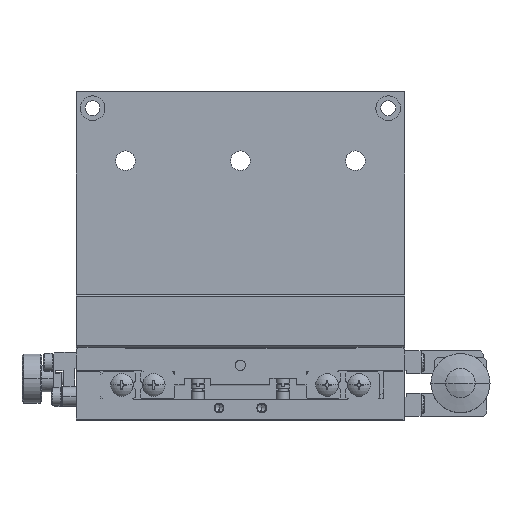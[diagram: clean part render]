
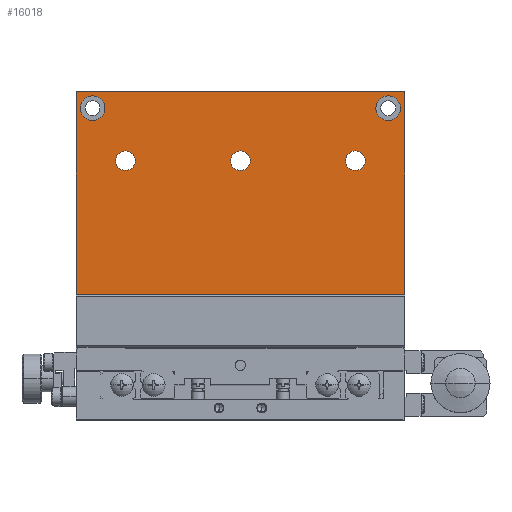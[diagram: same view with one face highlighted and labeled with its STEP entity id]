
A CAD part, top view. The second image highlights one B-rep face of the part: STEP entity #16018.
In plain terms, the highlighted planar face has unit normal (0, 0, 1) as drawn and (0, -1, 0) by its records, which use the part's own axes.
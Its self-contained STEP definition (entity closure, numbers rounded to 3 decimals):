
#1171 = EDGE_CURVE ( 'NONE', #1173, #1875, #42209, .T. ) ;
#1173 = VERTEX_POINT ( 'NONE', #42195 ) ;
#1875 = VERTEX_POINT ( 'NONE', #43419 ) ;
#2656 = EDGE_CURVE ( 'NONE', #2658, #2661, #44769, .T. ) ;
#2658 = VERTEX_POINT ( 'NONE', #44761 ) ;
#2661 = VERTEX_POINT ( 'NONE', #44759 ) ;
#2997 = VERTEX_POINT ( 'NONE', #45536 ) ;
#2999 = EDGE_CURVE ( 'NONE', #3000, #2997, #45528, .T. ) ;
#3000 = VERTEX_POINT ( 'NONE', #45530 ) ;
#3028 = VERTEX_POINT ( 'NONE', #45593 ) ;
#3030 = EDGE_CURVE ( 'NONE', #3032, #3028, #45711, .T. ) ;
#3032 = VERTEX_POINT ( 'NONE', #45704 ) ;
#3268 = VERTEX_POINT ( 'NONE', #46104 ) ;
#3270 = EDGE_CURVE ( 'NONE', #3272, #3268, #46101, .T. ) ;
#3272 = VERTEX_POINT ( 'NONE', #46092 ) ;
#6101 = VERTEX_POINT ( 'NONE', #51802 ) ;
#6105 = EDGE_CURVE ( 'NONE', #6107, #6101, #51797, .T. ) ;
#6107 = VERTEX_POINT ( 'NONE', #51792 ) ;
#6262 = VERTEX_POINT ( 'NONE', #52079 ) ;
#6265 = EDGE_CURVE ( 'NONE', #6262, #6266, #52074, .T. ) ;
#6266 = VERTEX_POINT ( 'NONE', #52067 ) ;
#15965 = EDGE_CURVE ( 'NONE', #6262, #6107, #20200, .T. ) ;
#16000 = ORIENTED_EDGE ( 'NONE', *, *, #38216, .T. ) ;
#16001 = ORIENTED_EDGE ( 'NONE', *, *, #1171, .T. ) ;
#16003 = EDGE_LOOP ( 'NONE', ( #26228, #16107, #16108, #16109 ) ) ;
#16018 = ADVANCED_FACE ( 'NONE', ( #20257, #20256, #20255, #20253, #20251, #20249 ), #20246, .T. ) ;
#16019 = EDGE_LOOP ( 'NONE', ( #16020, #16022 ) ) ;
#16020 = ORIENTED_EDGE ( 'NONE', *, *, #3270, .T. ) ;
#16022 = ORIENTED_EDGE ( 'NONE', *, *, #37531, .T. ) ;
#16025 = EDGE_LOOP ( 'NONE', ( #16129, #16131 ) ) ;
#16107 = ORIENTED_EDGE ( 'NONE', *, *, #37020, .T. ) ;
#16108 = ORIENTED_EDGE ( 'NONE', *, *, #6265, .F. ) ;
#16109 = ORIENTED_EDGE ( 'NONE', *, *, #15965, .T. ) ;
#16129 = ORIENTED_EDGE ( 'NONE', *, *, #2999, .T. ) ;
#16131 = ORIENTED_EDGE ( 'NONE', *, *, #37561, .T. ) ;
#16132 = EDGE_LOOP ( 'NONE', ( #16133, #16134 ) ) ;
#16133 = ORIENTED_EDGE ( 'NONE', *, *, #3030, .T. ) ;
#16134 = ORIENTED_EDGE ( 'NONE', *, *, #37642, .T. ) ;
#16138 = EDGE_LOOP ( 'NONE', ( #16140, #16142 ) ) ;
#16140 = ORIENTED_EDGE ( 'NONE', *, *, #38109, .T. ) ;
#16142 = ORIENTED_EDGE ( 'NONE', *, *, #2656, .T. ) ;
#16145 = EDGE_LOOP ( 'NONE', ( #16000, #16001 ) ) ;
#20195 = DIRECTION ( 'NONE',  ( 1., 0., 0. ) ) ;
#20197 = VECTOR ( 'NONE', #20195, 1000. ) ;
#20199 = CARTESIAN_POINT ( 'NONE',  ( -50., 76., -78. ) ) ;
#20200 = LINE ( 'NONE', #20199, #20197 ) ;
#20239 = DIRECTION ( 'NONE',  ( 0., 0., 1. ) ) ;
#20241 = DIRECTION ( 'NONE',  ( 0., -1., 0. ) ) ;
#20243 = CARTESIAN_POINT ( 'NONE',  ( -50., 76., -78. ) ) ;
#20245 = AXIS2_PLACEMENT_3D ( 'NONE', #20243, #20241, #20239 ) ;
#20246 = PLANE ( 'NONE',  #20245 ) ;
#20249 = FACE_OUTER_BOUND ( 'NONE', #16003, .T. ) ;
#20251 = FACE_BOUND ( 'NONE', #16145, .T. ) ;
#20253 = FACE_BOUND ( 'NONE', #16138, .T. ) ;
#20255 = FACE_BOUND ( 'NONE', #16132, .T. ) ;
#20256 = FACE_BOUND ( 'NONE', #16025, .T. ) ;
#20257 = FACE_BOUND ( 'NONE', #16019, .T. ) ;
#26228 = ORIENTED_EDGE ( 'NONE', *, *, #6105, .T. ) ;
#37020 = EDGE_CURVE ( 'NONE', #6101, #6266, #57365, .T. ) ;
#37531 = EDGE_CURVE ( 'NONE', #3268, #3272, #57843, .T. ) ;
#37561 = EDGE_CURVE ( 'NONE', #2997, #3000, #57871, .T. ) ;
#37642 = EDGE_CURVE ( 'NONE', #3028, #3032, #57922, .T. ) ;
#38109 = EDGE_CURVE ( 'NONE', #2661, #2658, #58376, .T. ) ;
#38216 = EDGE_CURVE ( 'NONE', #1875, #1173, #58514, .T. ) ;
#42195 = CARTESIAN_POINT ( 'NONE',  ( 41.25, 76., -73. ) ) ;
#42196 = DIRECTION ( 'NONE',  ( 1., 0., 0. ) ) ;
#42197 = DIRECTION ( 'NONE',  ( 0., 1., 0. ) ) ;
#42198 = CARTESIAN_POINT ( 'NONE',  ( 45., 76., -73. ) ) ;
#42199 = AXIS2_PLACEMENT_3D ( 'NONE', #42198, #42197, #42196 ) ;
#42209 = CIRCLE ( 'NONE', #42199, 3.75 ) ;
#43419 = CARTESIAN_POINT ( 'NONE',  ( 48.75, 76., -73. ) ) ;
#44759 = CARTESIAN_POINT ( 'NONE',  ( -41.25, 76., -73. ) ) ;
#44761 = CARTESIAN_POINT ( 'NONE',  ( -48.75, 76., -73. ) ) ;
#44763 = DIRECTION ( 'NONE',  ( 1., 0., 0. ) ) ;
#44765 = DIRECTION ( 'NONE',  ( 0., 1., 0. ) ) ;
#44767 = CARTESIAN_POINT ( 'NONE',  ( -45., 76., -73. ) ) ;
#44768 = AXIS2_PLACEMENT_3D ( 'NONE', #44767, #44765, #44763 ) ;
#44769 = CIRCLE ( 'NONE', #44768, 3.75 ) ;
#45524 = DIRECTION ( 'NONE',  ( 1., 0., 0. ) ) ;
#45525 = DIRECTION ( 'NONE',  ( 0., 1., 0. ) ) ;
#45526 = CARTESIAN_POINT ( 'NONE',  ( 0., 76., -57. ) ) ;
#45527 = AXIS2_PLACEMENT_3D ( 'NONE', #45526, #45525, #45524 ) ;
#45528 = CIRCLE ( 'NONE', #45527, 3. ) ;
#45530 = CARTESIAN_POINT ( 'NONE',  ( -3., 76., -57. ) ) ;
#45536 = CARTESIAN_POINT ( 'NONE',  ( 3., 76., -57. ) ) ;
#45593 = CARTESIAN_POINT ( 'NONE',  ( -32., 76., -57. ) ) ;
#45704 = CARTESIAN_POINT ( 'NONE',  ( -38., 76., -57. ) ) ;
#45705 = DIRECTION ( 'NONE',  ( 1., 0., 0. ) ) ;
#45706 = DIRECTION ( 'NONE',  ( 0., 1., 0. ) ) ;
#45708 = CARTESIAN_POINT ( 'NONE',  ( -35., 76., -57. ) ) ;
#45709 = AXIS2_PLACEMENT_3D ( 'NONE', #45708, #45706, #45705 ) ;
#45711 = CIRCLE ( 'NONE', #45709, 3. ) ;
#46092 = CARTESIAN_POINT ( 'NONE',  ( 32., 76., -57. ) ) ;
#46094 = DIRECTION ( 'NONE',  ( 1., 0., 0. ) ) ;
#46096 = DIRECTION ( 'NONE',  ( 0., 1., 0. ) ) ;
#46097 = CARTESIAN_POINT ( 'NONE',  ( 35., 76., -57. ) ) ;
#46098 = AXIS2_PLACEMENT_3D ( 'NONE', #46097, #46096, #46094 ) ;
#46101 = CIRCLE ( 'NONE', #46098, 3. ) ;
#46104 = CARTESIAN_POINT ( 'NONE',  ( 38., 76., -57. ) ) ;
#51792 = CARTESIAN_POINT ( 'NONE',  ( 50., 76., -78. ) ) ;
#51793 = DIRECTION ( 'NONE',  ( 0., 0., 1. ) ) ;
#51794 = VECTOR ( 'NONE', #51793, 1000. ) ;
#51795 = CARTESIAN_POINT ( 'NONE',  ( 50., 76., -78. ) ) ;
#51797 = LINE ( 'NONE', #51795, #51794 ) ;
#51802 = CARTESIAN_POINT ( 'NONE',  ( 50., 76., -16. ) ) ;
#52067 = CARTESIAN_POINT ( 'NONE',  ( -50., 76., -16. ) ) ;
#52070 = DIRECTION ( 'NONE',  ( 0., 0., 1. ) ) ;
#52072 = VECTOR ( 'NONE', #52070, 1000. ) ;
#52073 = CARTESIAN_POINT ( 'NONE',  ( -50., 76., -78. ) ) ;
#52074 = LINE ( 'NONE', #52073, #52072 ) ;
#52079 = CARTESIAN_POINT ( 'NONE',  ( -50., 76., -78. ) ) ;
#57362 = DIRECTION ( 'NONE',  ( -1., 0., 0. ) ) ;
#57363 = VECTOR ( 'NONE', #57362, 1000. ) ;
#57364 = CARTESIAN_POINT ( 'NONE',  ( 50., 76., -16. ) ) ;
#57365 = LINE ( 'NONE', #57364, #57363 ) ;
#57785 = CARTESIAN_POINT ( 'NONE',  ( 35., 76., -57. ) ) ;
#57840 = DIRECTION ( 'NONE',  ( 1., 0., 0. ) ) ;
#57841 = DIRECTION ( 'NONE',  ( 0., 1., 0. ) ) ;
#57842 = AXIS2_PLACEMENT_3D ( 'NONE', #57785, #57841, #57840 ) ;
#57843 = CIRCLE ( 'NONE', #57842, 3. ) ;
#57867 = DIRECTION ( 'NONE',  ( 1., 0., 0. ) ) ;
#57868 = DIRECTION ( 'NONE',  ( 0., 1., 0. ) ) ;
#57869 = CARTESIAN_POINT ( 'NONE',  ( 0., 76., -57. ) ) ;
#57870 = AXIS2_PLACEMENT_3D ( 'NONE', #57869, #57868, #57867 ) ;
#57871 = CIRCLE ( 'NONE', #57870, 3. ) ;
#57918 = DIRECTION ( 'NONE',  ( 1., 0., 0. ) ) ;
#57919 = DIRECTION ( 'NONE',  ( 0., 1., 0. ) ) ;
#57920 = CARTESIAN_POINT ( 'NONE',  ( -35., 76., -57. ) ) ;
#57921 = AXIS2_PLACEMENT_3D ( 'NONE', #57920, #57919, #57918 ) ;
#57922 = CIRCLE ( 'NONE', #57921, 3. ) ;
#58372 = DIRECTION ( 'NONE',  ( 1., 0., 0. ) ) ;
#58373 = DIRECTION ( 'NONE',  ( 0., 1., 0. ) ) ;
#58374 = CARTESIAN_POINT ( 'NONE',  ( -45., 76., -73. ) ) ;
#58375 = AXIS2_PLACEMENT_3D ( 'NONE', #58374, #58373, #58372 ) ;
#58376 = CIRCLE ( 'NONE', #58375, 3.75 ) ;
#58510 = DIRECTION ( 'NONE',  ( 1., 0., 0. ) ) ;
#58511 = DIRECTION ( 'NONE',  ( 0., 1., 0. ) ) ;
#58512 = CARTESIAN_POINT ( 'NONE',  ( 45., 76., -73. ) ) ;
#58513 = AXIS2_PLACEMENT_3D ( 'NONE', #58512, #58511, #58510 ) ;
#58514 = CIRCLE ( 'NONE', #58513, 3.75 ) ;
